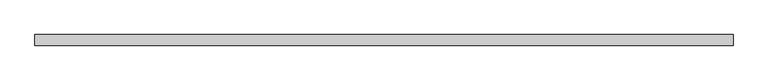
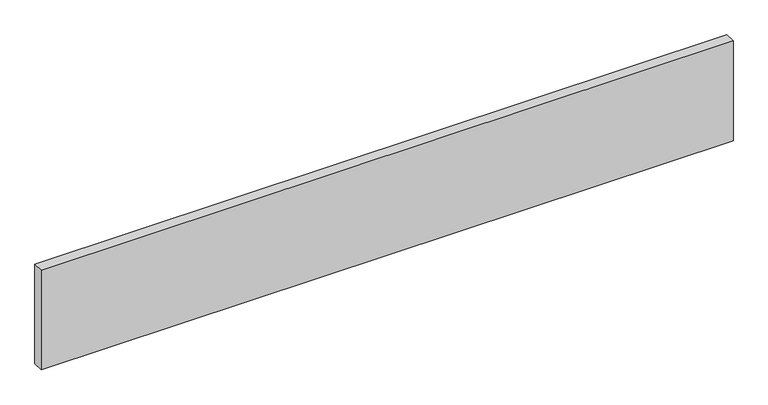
"""IFC4 building model written with IfcOpenShell, lengths in millimetres: proxy geometry."""

from ifc_helpers import new_model, si_unit, origin, origin_with_axes, place, context, project, spatial, polyline, outline, extrude, source, transform, mapped, element, save


def generic_models_e68eb8ef(model_context):
    return source(origin(), model_context, "Body", "SweptSolid", [
        extrude(outline(polyline([(15002.2270077, 100.0), (15002.2270077, -100.0), (1892.2123978, -100.0), (1892.2123978, 100.0), (15002.2270077, 100.0)])), origin_with_axes(), (0.0, 0.0, 1.0), 1996.741403),
    ])


if __name__ == "__main__":
    model = new_model("IFC4")
    model_context = context("Model", 3, world=origin())
    ifc_project = project(units=[si_unit("LENGTHUNIT", "METRE", prefix="MILLI")], contexts=[model_context])
    site = spatial("IfcSite", under=ifc_project)
    building = spatial("IfcBuilding", under=site)
    placement = place(None, origin())
    generic_models_shape = generic_models_e68eb8ef(model_context)
    element("IfcBuildingElementProxy", 1, Name="Generic Models", at=placement, inside=building, context=model_context, shape_type="MappedRepresentation", body=[
        mapped(generic_models_shape, transform((0.0, 0.0, 0.0), x_axis=(1.0, 0.0, 0.0), y_axis=(0.0, 1.0, 0.0), z_axis=(0.0, 0.0, 1.0))),
    ])
    save(model, "model.ifc")
